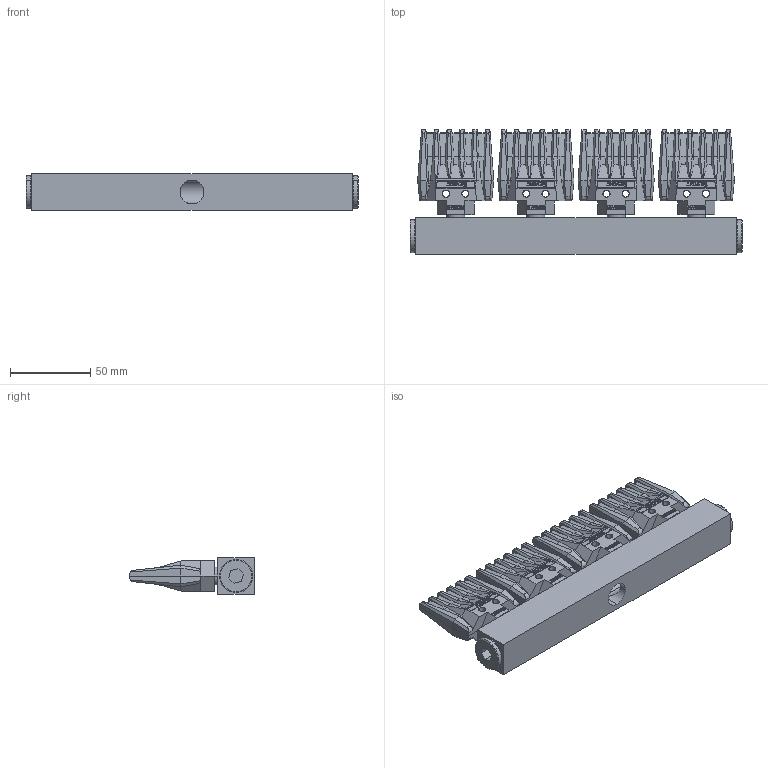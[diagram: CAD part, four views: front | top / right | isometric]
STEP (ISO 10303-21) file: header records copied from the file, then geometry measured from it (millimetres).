
FILE_DESCRIPTION (( 'STEP AP214' ), '1' );
FILE_NAME ('SILVENT_394_W-Z.STEP', '2025-08-29T07:00:59', ( '' ), ( '' ), 'SwSTEP 2.0', 'SolidWorks 2021', '' );
FILE_SCHEMA (( 'AUTOMOTIVE_DESIGN' ));
Length unit declared in the file: millimetre
Products named in the file (4): SILVENT_394_W-Z; Silvent 9002W-Z; Profil 300_304; Plugg 300
Assembly tree (7 placements, depth 2):
  SILVENT_394_W-Z
    Profil 300_304
    Plugg 300  x2
    Silvent 9002W-Z  x4
Bounding box: 207 x 77.91 x 23 mm (x, y, z)
Volume: 176610 mm3; surface area: 62788.9 mm2
Topology: 7 solids, 7 shells, 2390 faces, 6456 edges, 4236 vertices
Faces by surface type: plane 1758, bspline 384, cylinder 132, cone 108, torus 8
Entity records: 31752 total; most frequent: CARTESIAN_POINT 10570, ORIENTED_EDGE 3342, DIRECTION 2401, EDGE_CURVE 1671, LINE 1171, VECTOR 1171, VERTEX_POINT 1096, EDGE_LOOP 677
